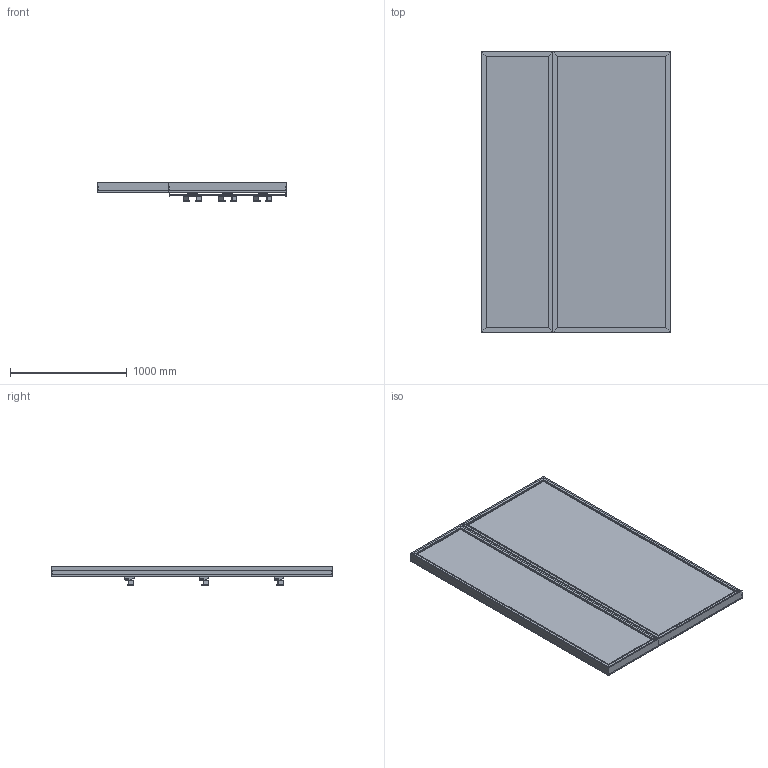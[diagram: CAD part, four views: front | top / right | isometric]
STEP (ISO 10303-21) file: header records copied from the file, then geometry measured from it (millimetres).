
FILE_DESCRIPTION (( 'STEP AP203' ), '1' );
FILE_NAME ('Padel Retail Display - Padel & Graphic Single.STEP', '2026-03-30T11:53:32', ( '' ), ( '' ), 'SwSTEP 2.0', 'SolidWorks 2025', '' );
FILE_SCHEMA (( 'CONFIG_CONTROL_DESIGN' ));
Length unit declared in the file: millimetre
Products named in the file (9): 368-01-GA01; 0001-31-GA10 - 1005W Slotted upbright; 0001-31-GA01 - 610W Slotted Upright; Padel Retail Display - Padel & Graphic Single; Padel Racket Display 1005mm - Single Holder_Assem4; 0001-31-SA26 - 1005W Rear support Bar.STEP; 0001-31-131.STEP; 0001-31-103.STEP; 0001-31-SA26 - 1005W Rear support Bar_Assem8
Assembly tree (19 placements, depth 5):
  Padel Retail Display - Padel & Graphic Single
    Padel Racket Display 1005mm - Single Holder_Assem4
      0001-31-GA10 - 1005W Slotted upbright
      0001-31-SA26 - 1005W Rear support Bar_Assem8  x3
        0001-31-SA26 - 1005W Rear support Bar.STEP
          0001-31-103.STEP  x2
          0001-31-131.STEP
      368-01-GA01  x9
    0001-31-GA01 - 610W Slotted Upright
Bounding box: 1615.49 x 2400 x 158.15 mm (x, y, z)
Volume: 15242834.5 mm3; surface area: 20636257.7 mm2
Topology: 30 solids, 30 shells, 1783 faces, 5475 edges, 3530 vertices
Faces by surface type: plane 1444, cylinder 339
Entity records: 42985 total; most frequent: CARTESIAN_POINT 8141, ORIENTED_EDGE 7732, DIRECTION 6008, EDGE_CURVE 3866, VECTOR 3610, LINE 3610, VERTEX_POINT 2564, EDGE_LOOP 1352
